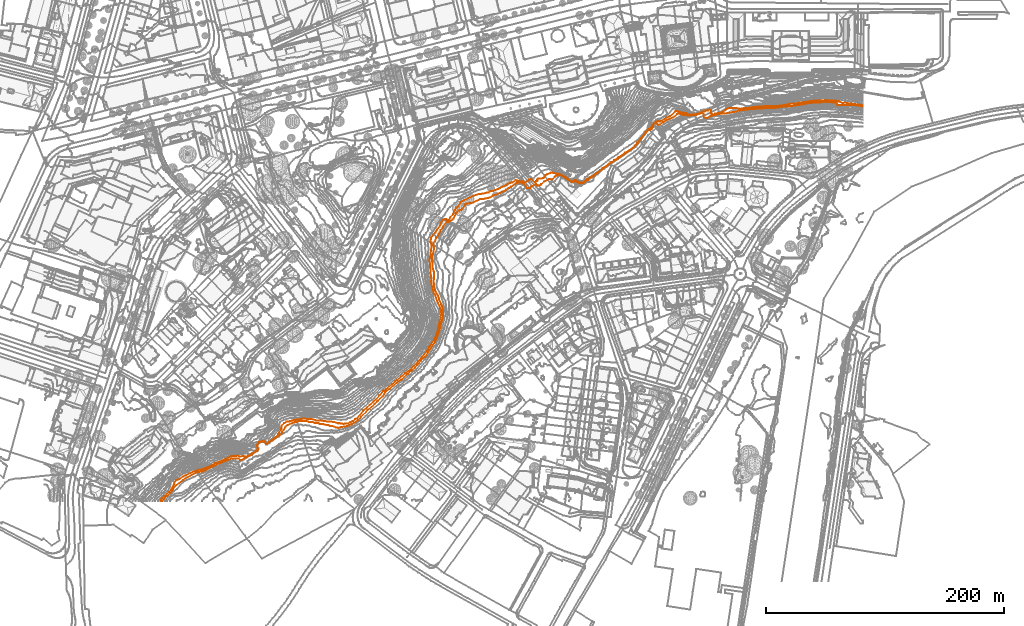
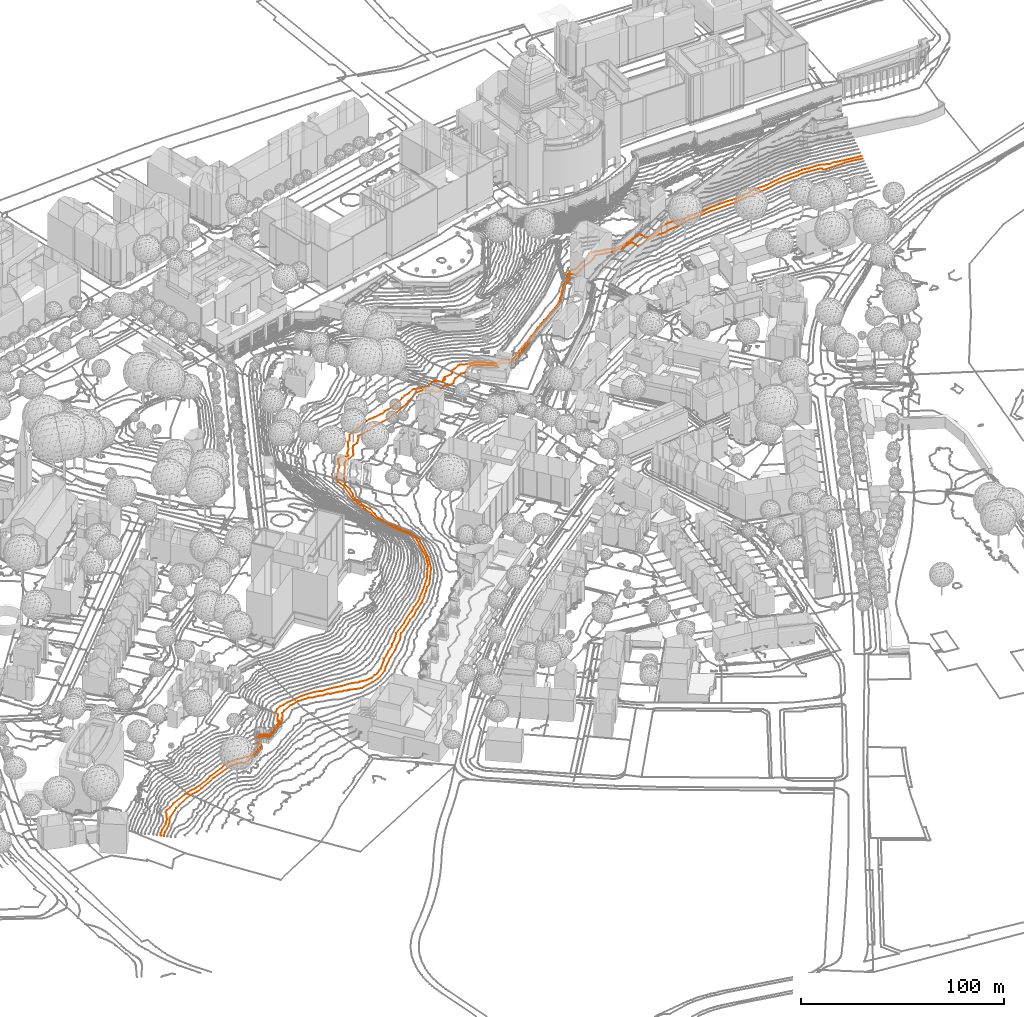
# Not in any storey, part 146 of 494: 2 proxies.
"""IFC2X3 model written with IfcOpenShell, lengths in metres."""

from ifc_helpers import new_model, entity, si_unit, frame, origin_with_axes, place, context, subcontext, project, element, save


model = new_model("IFC2X3")

# Units and contexts
model_context = context("Model", 3, precision=1e-05, world=origin_with_axes())
body_context = subcontext(model_context, "Body", "Model", "MODEL_VIEW")
ifc_project = project(units=[si_unit("AREAUNIT", "SQUARE_METRE"), si_unit("LENGTHUNIT", "METRE")], contexts=[model_context])

# Proxies
proxy_1_placement = place(None, frame((98.571785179, -1.3292839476, 514.0), z_axis=(0.0, 0.0, 1.0), x_axis=(1.0, 0.0, 0.0)))
element("IfcBuildingElementProxy", 1, at=proxy_1_placement, Name="Contour Line 514.0 m", ObjectType="NOTDEFINED", context=body_context, shape_type="GeometricCurveSet", body=[
    entity("IfcGeometricCurveSet", [entity("IfcPolyline", [entity("IfcCartesianPoint", [589.6059468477, 331.9594282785, 0.0]), entity("IfcCartesianPoint", [584.1059468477, 332.9548696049, 0.0]), entity("IfcCartesianPoint", [580.1059468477, 333.2651640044, 0.0]), entity("IfcCartesianPoint", [568.1059468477, 333.1417293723, 0.0]), entity("IfcCartesianPoint", [567.7013393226, 333.5, 0.0]), entity("IfcCartesianPoint", [567.5474795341, 334.5, 0.0]), entity("IfcCartesianPoint", [567.1059468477, 335.1589852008, 0.0]), entity("IfcCartesianPoint", [557.1059468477, 335.9187613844, 0.0]), entity("IfcCartesianPoint", [554.1059468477, 335.468743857, 0.0]), entity("IfcCartesianPoint", [550.1059468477, 335.445749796, 0.0]), entity("IfcCartesianPoint", [543.1059468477, 334.720130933, 0.0]), entity("IfcCartesianPoint", [536.1059468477, 333.2862035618, 0.0]), entity("IfcCartesianPoint", [527.1059468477, 332.1477184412, 0.0]), entity("IfcCartesianPoint", [523.1059468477, 331.9909195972, 0.0]), entity("IfcCartesianPoint", [517.1059468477, 330.9113481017, 0.0]), entity("IfcCartesianPoint", [502.1059468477, 330.3070641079, 0.0]), entity("IfcCartesianPoint", [489.1059468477, 329.151512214, 0.0]), entity("IfcCartesianPoint", [485.1059468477, 328.5150466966, 0.0]), entity("IfcCartesianPoint", [481.1059468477, 327.2763547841, 0.0]), entity("IfcCartesianPoint", [477.1059468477, 326.9075410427, 0.0]), entity("IfcCartesianPoint", [473.1059468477, 325.8122884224, 0.0]), entity("IfcCartesianPoint", [470.1059468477, 325.86896447, 0.0]), entity("IfcCartesianPoint", [466.5301568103, 325.5, 0.0]), entity("IfcCartesianPoint", [461.1059468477, 323.8666316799, 0.0]), entity("IfcCartesianPoint", [458.1059468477, 322.3912874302, 0.0]), entity("IfcCartesianPoint", [455.5817755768, 322.5, 0.0]), entity("IfcCartesianPoint", [455.2127024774, 325.5, 0.0]), entity("IfcCartesianPoint", [454.5564838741, 326.5, 0.0]), entity("IfcCartesianPoint", [453.1059468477, 326.5453425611, 0.0]), entity("IfcCartesianPoint", [452.1059468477, 325.8508018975, 0.0]), entity("IfcCartesianPoint", [450.1059468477, 325.6670409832, 0.0]), entity("IfcCartesianPoint", [449.1059468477, 324.8782945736, 0.0]), entity("IfcCartesianPoint", [446.1059468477, 324.7115833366, 0.0]), entity("IfcCartesianPoint", [444.1059468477, 324.2545758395, 0.0]), entity("IfcCartesianPoint", [443.1059468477, 324.5233151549, 0.0]), entity("IfcCartesianPoint", [442.1059468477, 324.2590649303, 0.0]), entity("IfcCartesianPoint", [440.1059468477, 324.9649453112, 0.0]), entity("IfcCartesianPoint", [439.1059468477, 324.7634403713, 0.0]), entity("IfcCartesianPoint", [438.1059468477, 324.9267159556, 0.0]), entity("IfcCartesianPoint", [434.1059468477, 325.9720920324, 0.0]), entity("IfcCartesianPoint", [433.1059468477, 325.5798801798, 0.0]), entity("IfcCartesianPoint", [431.0058629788, 323.5, 0.0]), entity("IfcCartesianPoint", [424.1059468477, 320.5284500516, 0.0]), entity("IfcCartesianPoint", [421.1059468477, 318.8002840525, 0.0]), entity("IfcCartesianPoint", [418.1059468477, 316.593466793, 0.0]), entity("IfcCartesianPoint", [417.1059468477, 316.505817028, 0.0]), entity("IfcCartesianPoint", [416.1059468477, 317.6086511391, 0.0]), entity("IfcCartesianPoint", [415.1059468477, 317.7781615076, 0.0]), entity("IfcCartesianPoint", [413.919844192, 317.5, 0.0]), entity("IfcCartesianPoint", [412.9192415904, 316.5, 0.0]), entity("IfcCartesianPoint", [412.6114441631, 314.5, 0.0]), entity("IfcCartesianPoint", [411.8119962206, 313.5, 0.0]), entity("IfcCartesianPoint", [410.1059468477, 312.3087978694, 0.0]), entity("IfcCartesianPoint", [409.1059468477, 312.1571203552, 0.0]), entity("IfcCartesianPoint", [408.1059468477, 311.6035927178, 0.0]), entity("IfcCartesianPoint", [407.1059468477, 310.571220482, 0.0]), entity("IfcCartesianPoint", [406.5355430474, 309.5, 0.0]), entity("IfcCartesianPoint", [403.8411647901, 306.5, 0.0]), entity("IfcCartesianPoint", [402.5788230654, 304.5, 0.0]), entity("IfcCartesianPoint", [400.6896970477, 302.5, 0.0]), entity("IfcCartesianPoint", [399.4157669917, 300.5, 0.0]), entity("IfcCartesianPoint", [396.1059468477, 297.1753197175, 0.0]), entity("IfcCartesianPoint", [383.1059468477, 288.2681412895, 0.0]), entity("IfcCartesianPoint", [376.1059468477, 283.886979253, 0.0]), entity("IfcCartesianPoint", [373.1059468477, 281.3509190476, 0.0]), entity("IfcCartesianPoint", [372.1059468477, 280.9328076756, 0.0]), entity("IfcCartesianPoint", [368.1059468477, 277.8595099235, 0.0]), entity("IfcCartesianPoint", [366.864543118, 276.5, 0.0]), entity("IfcCartesianPoint", [365.1059468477, 275.3777453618, 0.0]), entity("IfcCartesianPoint", [364.1059468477, 274.3519344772, 0.0]), entity("IfcCartesianPoint", [363.1059468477, 274.0240634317, 0.0]), entity("IfcCartesianPoint", [362.1059468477, 273.0766403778, 0.0]), entity("IfcCartesianPoint", [359.1059468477, 271.5437306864, 0.0]), entity("IfcCartesianPoint", [358.1059468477, 270.1761286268, 0.0]), entity("IfcCartesianPoint", [357.1059468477, 270.1074814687, 0.0]), entity("IfcCartesianPoint", [354.1059468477, 267.6359585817, 0.0]), entity("IfcCartesianPoint", [351.1059468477, 267.1376009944, 0.0]), entity("IfcCartesianPoint", [347.1059468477, 268.7859482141, 0.0]), entity("IfcCartesianPoint", [346.1059468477, 268.904473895, 0.0]), entity("IfcCartesianPoint", [344.1059468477, 268.3609822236, 0.0]), entity("IfcCartesianPoint", [335.1059468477, 274.0833305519, 0.0]), entity("IfcCartesianPoint", [333.1059468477, 274.3560474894, 0.0]), entity("IfcCartesianPoint", [330.6603356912, 273.5, 0.0]), entity("IfcCartesianPoint", [328.1059468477, 270.9899579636, 0.0]), entity("IfcCartesianPoint", [327.1223556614, 270.5, 0.0]), entity("IfcCartesianPoint", [325.1059468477, 271.0758346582, 0.0]), entity("IfcCartesianPoint", [324.1059468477, 270.1862793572, 0.0]), entity("IfcCartesianPoint", [321.1059468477, 268.9553617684, 0.0]), entity("IfcCartesianPoint", [318.4668402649, 266.5, 0.0]), entity("IfcCartesianPoint", [318.1059468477, 265.7990867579, 0.0]), entity("IfcCartesianPoint", [316.1059468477, 265.2887806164, 0.0]), entity("IfcCartesianPoint", [315.1059468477, 265.5125633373, 0.0]), entity("IfcCartesianPoint", [314.1059468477, 266.5152134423, 0.0]), entity("IfcCartesianPoint", [313.1059468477, 266.307449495, 0.0]), entity("IfcCartesianPoint", [310.1059468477, 264.4398426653, 0.0]), entity("IfcCartesianPoint", [309.1059468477, 262.8287356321, 0.0]), entity("IfcCartesianPoint", [306.8247918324, 263.5, 0.0]), entity("IfcCartesianPoint", [305.3821909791, 265.5, 0.0]), entity("IfcCartesianPoint", [304.0416921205, 266.5, 0.0]), entity("IfcCartesianPoint", [303.1059468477, 267.6671026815, 0.0]), entity("IfcCartesianPoint", [302.1059468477, 268.0207406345, 0.0]), entity("IfcCartesianPoint", [298.1059468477, 267.8260165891, 0.0]), entity("IfcCartesianPoint", [293.1059468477, 264.4023964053, 0.0]), entity("IfcCartesianPoint", [291.1059468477, 263.4459995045, 0.0]), entity("IfcCartesianPoint", [289.1059468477, 261.9114846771, 0.0]), entity("IfcCartesianPoint", [286.1059468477, 260.3113750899, 0.0]), entity("IfcCartesianPoint", [285.1059468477, 260.0516181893, 0.0]), entity("IfcCartesianPoint", [284.1059468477, 259.3177101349, 0.0]), entity("IfcCartesianPoint", [278.1059468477, 256.9555649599, 0.0]), entity("IfcCartesianPoint", [275.1059468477, 255.2053731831, 0.0]), entity("IfcCartesianPoint", [269.1059468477, 254.0316049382, 0.0]), entity("IfcCartesianPoint", [267.1059468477, 253.904609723, 0.0]), entity("IfcCartesianPoint", [261.1059468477, 251.1013114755, 0.0]), entity("IfcCartesianPoint", [255.1059468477, 250.0660553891, 0.0]), entity("IfcCartesianPoint", [254.4528812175, 249.5, 0.0]), entity("IfcCartesianPoint", [254.1059468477, 248.4628787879, 0.0]), entity("IfcCartesianPoint", [251.8094976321, 245.5, 0.0]), entity("IfcCartesianPoint", [251.1059468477, 244.8616383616, 0.0]), entity("IfcCartesianPoint", [249.1059468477, 244.2946341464, 0.0]), entity("IfcCartesianPoint", [248.2414501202, 243.5, 0.0]), entity("IfcCartesianPoint", [247.1059468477, 242.09070568, 0.0]), entity("IfcCartesianPoint", [244.8250013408, 237.5, 0.0]), entity("IfcCartesianPoint", [244.1059468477, 236.7736055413, 0.0]), entity("IfcCartesianPoint", [241.1059468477, 235.1178809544, 0.0]), entity("IfcCartesianPoint", [240.1059468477, 234.8031265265, 0.0]), entity("IfcCartesianPoint", [239.1059468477, 235.0024965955, 0.0]), entity("IfcCartesianPoint", [237.1059468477, 232.6320885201, 0.0]), entity("IfcCartesianPoint", [236.1059468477, 231.0991421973, 0.0]), entity("IfcCartesianPoint", [235.5253586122, 229.5, 0.0]), entity("IfcCartesianPoint", [234.1059468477, 227.8231179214, 0.0]), entity("IfcCartesianPoint", [233.1059468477, 225.7654304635, 0.0]), entity("IfcCartesianPoint", [232.1059468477, 224.6135211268, 0.0]), entity("IfcCartesianPoint", [231.7069579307, 223.5, 0.0]), entity("IfcCartesianPoint", [230.2936835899, 221.5, 0.0]), entity("IfcCartesianPoint", [229.1758440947, 218.5, 0.0]), entity("IfcCartesianPoint", [228.1059468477, 217.2849056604, 0.0]), entity("IfcCartesianPoint", [227.9494970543, 216.5, 0.0]), entity("IfcCartesianPoint", [228.4861640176, 212.5, 0.0]), entity("IfcCartesianPoint", [227.3376971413, 207.5, 0.0]), entity("IfcCartesianPoint", [226.8652773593, 206.5, 0.0]), entity("IfcCartesianPoint", [226.5787369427, 202.5, 0.0]), entity("IfcCartesianPoint", [226.9668421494, 200.5, 0.0]), entity("IfcCartesianPoint", [227.0148047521, 197.5, 0.0]), entity("IfcCartesianPoint", [228.2474833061, 192.5, 0.0]), entity("IfcCartesianPoint", [228.3943592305, 187.5, 0.0]), entity("IfcCartesianPoint", [228.050290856, 184.5, 0.0]), entity("IfcCartesianPoint", [228.6155231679, 182.5, 0.0]), entity("IfcCartesianPoint", [228.622274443, 180.5, 0.0]), entity("IfcCartesianPoint", [229.4763681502, 177.5, 0.0]), entity("IfcCartesianPoint", [231.5663255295, 173.5, 0.0]), entity("IfcCartesianPoint", [232.7020662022, 170.5, 0.0]), entity("IfcCartesianPoint", [232.7532195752, 169.5, 0.0]), entity("IfcCartesianPoint", [235.1124173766, 164.5, 0.0]), entity("IfcCartesianPoint", [236.0861800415, 159.5, 0.0]), entity("IfcCartesianPoint", [236.1380164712, 156.5, 0.0]), entity("IfcCartesianPoint", [232.731497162, 142.5, 0.0]), entity("IfcCartesianPoint", [229.1059468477, 133.6725989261, 0.0]), entity("IfcCartesianPoint", [221.1059468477, 121.6346685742, 0.0]), entity("IfcCartesianPoint", [219.1059468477, 120.4701397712, 0.0]), entity("IfcCartesianPoint", [217.1059468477, 117.5794183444, 0.0]), entity("IfcCartesianPoint", [214.8938659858, 115.5, 0.0]), entity("IfcCartesianPoint", [214.1059468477, 114.3082275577, 0.0]), entity("IfcCartesianPoint", [210.1059468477, 110.0570573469, 0.0]), entity("IfcCartesianPoint", [209.0609356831, 109.5, 0.0]), entity("IfcCartesianPoint", [206.1059468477, 106.7305249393, 0.0]), entity("IfcCartesianPoint", [205.1059468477, 106.2569254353, 0.0]), entity("IfcCartesianPoint", [201.1059468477, 102.372452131, 0.0]), entity("IfcCartesianPoint", [198.082780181, 100.5, 0.0]), entity("IfcCartesianPoint", [191.1059468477, 94.3679515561, 0.0]), entity("IfcCartesianPoint", [188.2120156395, 92.5, 0.0]), entity("IfcCartesianPoint", [187.2626299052, 91.5, 0.0]), entity("IfcCartesianPoint", [186.297906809, 89.5, 0.0]), entity("IfcCartesianPoint", [185.1059468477, 88.0558485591, 0.0]), entity("IfcCartesianPoint", [181.1619781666, 84.5, 0.0]), entity("IfcCartesianPoint", [180.5318760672, 83.5, 0.0]), entity("IfcCartesianPoint", [178.5059468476, 81.5, 0.0]), entity("IfcCartesianPoint", [172.5660353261, 76.5, 0.0]), entity("IfcCartesianPoint", [167.1059468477, 71.0212385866, 0.0]), entity("IfcCartesianPoint", [165.0123149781, 68.5, 0.0]), entity("IfcCartesianPoint", [159.1059468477, 64.5733065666, 0.0]), entity("IfcCartesianPoint", [155.1059468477, 63.0264499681, 0.0]), entity("IfcCartesianPoint", [149.1059468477, 61.9143686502, 0.0]), entity("IfcCartesianPoint", [148.1059468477, 61.4517728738, 0.0]), entity("IfcCartesianPoint", [146.1059468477, 61.74251497, 0.0]), entity("IfcCartesianPoint", [142.1059468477, 63.1335234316, 0.0]), entity("IfcCartesianPoint", [141.1059468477, 63.0815968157, 0.0]), entity("IfcCartesianPoint", [139.1059468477, 63.7802916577, 0.0]), entity("IfcCartesianPoint", [138.1059468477, 63.750155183, 0.0]), entity("IfcCartesianPoint", [136.1059468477, 64.463902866, 0.0]), entity("IfcCartesianPoint", [132.1059468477, 64.7651085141, 0.0]), entity("IfcCartesianPoint", [131.1059468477, 65.5719273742, 0.0]), entity("IfcCartesianPoint", [128.1059468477, 65.5747102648, 0.0]), entity("IfcCartesianPoint", [126.1059468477, 66.2330412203, 0.0]), entity("IfcCartesianPoint", [123.1059468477, 66.5140122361, 0.0]), entity("IfcCartesianPoint", [121.1059468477, 67.2397260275, 0.0]), entity("IfcCartesianPoint", [115.1059468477, 67.3246373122, 0.0]), entity("IfcCartesianPoint", [112.1059468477, 66.3973349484, 0.0]), entity("IfcCartesianPoint", [110.1059468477, 66.1534486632, 0.0]), entity("IfcCartesianPoint", [105.1059468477, 63.7904059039, 0.0]), entity("IfcCartesianPoint", [103.3303370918, 62.5, 0.0]), entity("IfcCartesianPoint", [101.6186685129, 59.5, 0.0]), entity("IfcCartesianPoint", [100.6341247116, 58.5, 0.0]), entity("IfcCartesianPoint", [100.6378731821, 57.5, 0.0]), entity("IfcCartesianPoint", [98.1059468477, 54.855233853, 0.0]), entity("IfcCartesianPoint", [96.1059468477, 53.9499979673, 0.0]), entity("IfcCartesianPoint", [95.1059468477, 52.987346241, 0.0]), entity("IfcCartesianPoint", [94.1059468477, 52.605436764, 0.0]), entity("IfcCartesianPoint", [92.1059468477, 50.9747451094, 0.0]), entity("IfcCartesianPoint", [91.1059468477, 50.5740040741, 0.0]), entity("IfcCartesianPoint", [88.1059468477, 48.0311904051, 0.0]), entity("IfcCartesianPoint", [87.1059468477, 47.9833058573, 0.0]), entity("IfcCartesianPoint", [86.1059468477, 49.2589251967, 0.0]), entity("IfcCartesianPoint", [85.1059468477, 49.9767742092, 0.0]), entity("IfcCartesianPoint", [84.1059468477, 50.0413510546, 0.0]), entity("IfcCartesianPoint", [81.6856656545, 49.5, 0.0]), entity("IfcCartesianPoint", [79.9453875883, 47.5, 0.0]), entity("IfcCartesianPoint", [79.87834985, 45.5, 0.0]), entity("IfcCartesianPoint", [80.3794131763, 43.5, 0.0]), entity("IfcCartesianPoint", [79.9560072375, 42.5, 0.0]), entity("IfcCartesianPoint", [79.1059468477, 41.8758182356, 0.0]), entity("IfcCartesianPoint", [78.1059468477, 41.5844886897, 0.0]), entity("IfcCartesianPoint", [75.1059468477, 39.166845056, 0.0]), entity("IfcCartesianPoint", [74.1059468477, 38.8985721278, 0.0]), entity("IfcCartesianPoint", [73.1059468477, 38.0644364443, 0.0]), entity("IfcCartesianPoint", [72.1059468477, 37.9028998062, 0.0]), entity("IfcCartesianPoint", [71.1059468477, 37.0227254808, 0.0]), entity("IfcCartesianPoint", [66.4226121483, 34.5, 0.0]), entity("IfcCartesianPoint", [65.2836820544, 34.5, 0.0]), entity("IfcCartesianPoint", [64.1059468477, 35.6488322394, 0.0]), entity("IfcCartesianPoint", [62.1059468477, 35.8882172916, 0.0]), entity("IfcCartesianPoint", [58.1059468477, 35.7005704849, 0.0]), entity("IfcCartesianPoint", [46.1059468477, 31.0009292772, 0.0]), entity("IfcCartesianPoint", [36.1059468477, 26.0742637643, 0.0]), entity("IfcCartesianPoint", [33.1059468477, 24.8631255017, 0.0]), entity("IfcCartesianPoint", [28.1059468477, 23.8907358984, 0.0]), entity("IfcCartesianPoint", [20.1059468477, 19.6237955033, 0.0]), entity("IfcCartesianPoint", [17.1059468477, 17.6781775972, 0.0]), entity("IfcCartesianPoint", [11.1059468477, 12.9367421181, 0.0]), entity("IfcCartesianPoint", [9.7576456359, 11.5, 0.0]), entity("IfcCartesianPoint", [8.6793084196, 9.5, 0.0]), entity("IfcCartesianPoint", [6.1235510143, 6.5, 0.0]), entity("IfcCartesianPoint", [2.1059468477, 2.8763125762, 0.0]), entity("IfcCartesianPoint", [0.0, 0.5, 0.0]), entity("IfcCartesianPoint", [0.0, 0.0, 0.0])])]),
])
proxy_2_placement = place(None, frame((96.6989992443, -1.3292839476, 515.0), z_axis=(0.0, 0.0, 1.0), x_axis=(1.0, 0.0, 0.0)))
element("IfcBuildingElementProxy", 2, at=proxy_2_placement, Name="Contour Line 515.0 m", ObjectType="NOTDEFINED", context=body_context, shape_type="GeometricCurveSet", body=[
    entity("IfcGeometricCurveSet", [entity("IfcPolyline", [entity("IfcCartesianPoint", [591.4787327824, 332.9415138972, 0.0]), entity("IfcCartesianPoint", [577.9787327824, 334.768607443, 0.0]), entity("IfcCartesianPoint", [575.9787327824, 335.3374003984, 0.0]), entity("IfcCartesianPoint", [573.9787327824, 334.6984909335, 0.0]), entity("IfcCartesianPoint", [570.9787327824, 336.3086014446, 0.0]), entity("IfcCartesianPoint", [567.9787327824, 336.9974543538, 0.0]), entity("IfcCartesianPoint", [562.9787327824, 337.0015273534, 0.0]), entity("IfcCartesianPoint", [559.9787327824, 337.426889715, 0.0]), entity("IfcCartesianPoint", [557.9787327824, 337.0893248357, 0.0]), entity("IfcCartesianPoint", [548.9787327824, 336.7439199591, 0.0]), entity("IfcCartesianPoint", [540.9787327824, 335.5189300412, 0.0]), entity("IfcCartesianPoint", [537.9787327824, 334.7450601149, 0.0]), entity("IfcCartesianPoint", [531.9787327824, 334.541755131, 0.0]), entity("IfcCartesianPoint", [521.9787327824, 332.6477461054, 0.0]), entity("IfcCartesianPoint", [516.9787327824, 332.26888015, 0.0]), entity("IfcCartesianPoint", [513.9787327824, 332.4925011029, 0.0]), entity("IfcCartesianPoint", [499.9787327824, 331.5959531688, 0.0]), entity("IfcCartesianPoint", [494.9787327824, 330.8009591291, 0.0]), entity("IfcCartesianPoint", [490.9787327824, 330.5956361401, 0.0]), entity("IfcCartesianPoint", [487.9787327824, 330.0144763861, 0.0]), entity("IfcCartesianPoint", [483.9787327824, 330.6640897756, 0.0]), entity("IfcCartesianPoint", [479.9787327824, 330.8440860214, 0.0]), entity("IfcCartesianPoint", [477.9787327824, 330.5143639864, 0.0]), entity("IfcCartesianPoint", [475.9787327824, 329.7093643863, 0.0]), entity("IfcCartesianPoint", [471.9787327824, 326.9774697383, 0.0]), entity("IfcCartesianPoint", [466.9787327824, 325.8930828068, 0.0]), entity("IfcCartesianPoint", [465.9787327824, 325.3099361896, 0.0]), entity("IfcCartesianPoint", [463.6398315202, 325.5, 0.0]), entity("IfcCartesianPoint", [463.3678236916, 328.5, 0.0]), entity("IfcCartesianPoint", [462.0561360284, 329.5, 0.0]), entity("IfcCartesianPoint", [460.9787327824, 328.6560026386, 0.0]), entity("IfcCartesianPoint", [458.7236513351, 328.5, 0.0]), entity("IfcCartesianPoint", [457.9787327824, 327.8515700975, 0.0]), entity("IfcCartesianPoint", [456.1708539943, 327.5, 0.0]), entity("IfcCartesianPoint", [452.9787327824, 325.9277697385, 0.0]), entity("IfcCartesianPoint", [451.9787327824, 325.9614154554, 0.0]), entity("IfcCartesianPoint", [449.9787327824, 325.1366212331, 0.0]), entity("IfcCartesianPoint", [447.9787327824, 325.3383382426, 0.0]), entity("IfcCartesianPoint", [445.9787327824, 324.9123844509, 0.0]), entity("IfcCartesianPoint", [444.9787327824, 325.3430479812, 0.0]), entity("IfcCartesianPoint", [443.9787327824, 325.3352652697, 0.0]), entity("IfcCartesianPoint", [442.9787327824, 326.181233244, 0.0]), entity("IfcCartesianPoint", [441.9787327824, 326.433919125, 0.0]), entity("IfcCartesianPoint", [440.9787327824, 326.3007536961, 0.0]), entity("IfcCartesianPoint", [433.9787327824, 328.0890675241, 0.0]), entity("IfcCartesianPoint", [432.9787327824, 327.6170743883, 0.0]), entity("IfcCartesianPoint", [428.9787327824, 323.8275583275, 0.0]), entity("IfcCartesianPoint", [425.7405420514, 322.5, 0.0]), entity("IfcCartesianPoint", [420.9787327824, 319.5451778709, 0.0]), entity("IfcCartesianPoint", [419.9787327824, 319.3086174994, 0.0]), entity("IfcCartesianPoint", [418.9787327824, 319.7831848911, 0.0]), entity("IfcCartesianPoint", [416.9787327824, 319.2932485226, 0.0]), entity("IfcCartesianPoint", [416.578034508, 318.5, 0.0]), entity("IfcCartesianPoint", [414.9787327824, 317.5531714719, 0.0]), entity("IfcCartesianPoint", [414.0146504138, 316.5, 0.0]), entity("IfcCartesianPoint", [412.3924279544, 313.5, 0.0]), entity("IfcCartesianPoint", [410.9787327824, 312.9702900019, 0.0]), entity("IfcCartesianPoint", [408.3742339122, 310.5, 0.0]), entity("IfcCartesianPoint", [407.0936332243, 308.5, 0.0]), entity("IfcCartesianPoint", [404.4269508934, 305.5, 0.0]), entity("IfcCartesianPoint", [403.1779585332, 303.5, 0.0]), entity("IfcCartesianPoint", [401.3153707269, 301.5, 0.0]), entity("IfcCartesianPoint", [399.980817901, 299.5, 0.0]), entity("IfcCartesianPoint", [398.8302223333, 298.5, 0.0]), entity("IfcCartesianPoint", [395.0201782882, 295.5, 0.0]), entity("IfcCartesianPoint", [390.9787327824, 293.0302076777, 0.0]), entity("IfcCartesianPoint", [386.1551833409, 289.5, 0.0]), entity("IfcCartesianPoint", [384.9787327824, 289.0106936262, 0.0]), entity("IfcCartesianPoint", [382.9787327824, 287.3566530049, 0.0]), entity("IfcCartesianPoint", [381.9787327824, 287.0233266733, 0.0]), entity("IfcCartesianPoint", [379.9787327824, 285.3350121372, 0.0]), entity("IfcCartesianPoint", [378.9787327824, 285.0066216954, 0.0]), entity("IfcCartesianPoint", [372.9787327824, 280.3321134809, 0.0]), entity("IfcCartesianPoint", [371.9787327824, 280.0073905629, 0.0]), entity("IfcCartesianPoint", [367.9787327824, 276.2127376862, 0.0]), entity("IfcCartesianPoint", [366.9787327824, 276.0185750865, 0.0]), entity("IfcCartesianPoint", [365.5607562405, 274.5, 0.0]), entity("IfcCartesianPoint", [363.9787327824, 273.3696460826, 0.0]), entity("IfcCartesianPoint", [362.9787327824, 273.0440775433, 0.0]), entity("IfcCartesianPoint", [361.9787327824, 272.2404329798, 0.0]), entity("IfcCartesianPoint", [360.9787327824, 272.05513937, 0.0]), entity("IfcCartesianPoint", [359.9787327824, 270.55598982, 0.0]), entity("IfcCartesianPoint", [358.9787327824, 270.8315259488, 0.0]), entity("IfcCartesianPoint", [355.9787327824, 268.1500470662, 0.0]), entity("IfcCartesianPoint", [352.9787327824, 268.1558324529, 0.0]), entity("IfcCartesianPoint", [351.8814938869, 268.5, 0.0]), entity("IfcCartesianPoint", [349.9787327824, 269.7799091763, 0.0]), entity("IfcCartesianPoint", [348.9787327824, 269.8760092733, 0.0]), entity("IfcCartesianPoint", [345.9787327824, 268.8704053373, 0.0]), entity("IfcCartesianPoint", [343.2481027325, 270.5, 0.0]), entity("IfcCartesianPoint", [340.9787327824, 272.409914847, 0.0]), entity("IfcCartesianPoint", [336.9787327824, 274.6302069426, 0.0]), entity("IfcCartesianPoint", [330.9787327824, 275.9534248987, 0.0]), entity("IfcCartesianPoint", [329.9787327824, 276.5341997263, 0.0]), entity("IfcCartesianPoint", [328.9787327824, 276.5645847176, 0.0]), entity("IfcCartesianPoint", [325.9787327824, 274.9265301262, 0.0]), entity("IfcCartesianPoint", [323.9787327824, 274.4248633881, 0.0]), entity("IfcCartesianPoint", [322.9787327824, 272.1540905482, 0.0]), entity("IfcCartesianPoint", [321.9787327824, 271.5952801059, 0.0]), entity("IfcCartesianPoint", [317.9787327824, 271.2481910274, 0.0]), entity("IfcCartesianPoint", [317.0041804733, 270.5, 0.0]), entity("IfcCartesianPoint", [317.2738759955, 269.5, 0.0]), entity("IfcCartesianPoint", [316.9787327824, 269.0815185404, 0.0]), entity("IfcCartesianPoint", [315.9787327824, 269.006875, 0.0]), entity("IfcCartesianPoint", [315.8301163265, 268.5, 0.0]), entity("IfcCartesianPoint", [314.9787327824, 268.2312897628, 0.0]), entity("IfcCartesianPoint", [312.1897728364, 270.5, 0.0]), entity("IfcCartesianPoint", [311.9787327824, 270.9675615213, 0.0]), entity("IfcCartesianPoint", [310.435405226, 270.5, 0.0]), entity("IfcCartesianPoint", [309.4242960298, 269.5, 0.0]), entity("IfcCartesianPoint", [307.9787327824, 268.7887853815, 0.0]), entity("IfcCartesianPoint", [306.9787327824, 267.8933014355, 0.0]), entity("IfcCartesianPoint", [305.9787327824, 267.8881526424, 0.0]), entity("IfcCartesianPoint", [304.9787327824, 269.0180423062, 0.0]), entity("IfcCartesianPoint", [302.9787327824, 268.8419573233, 0.0]), entity("IfcCartesianPoint", [299.9787327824, 269.8174927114, 0.0]), entity("IfcCartesianPoint", [298.9787327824, 269.8747095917, 0.0]), entity("IfcCartesianPoint", [295.9787327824, 268.0885558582, 0.0]), entity("IfcCartesianPoint", [292.9787327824, 267.3068410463, 0.0]), entity("IfcCartesianPoint", [290.9787327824, 265.9906444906, 0.0]), entity("IfcCartesianPoint", [287.9787327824, 264.4594567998, 0.0]), entity("IfcCartesianPoint", [286.9787327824, 264.2634138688, 0.0]), entity("IfcCartesianPoint", [285.9787327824, 263.3903688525, 0.0]), entity("IfcCartesianPoint", [283.9787327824, 262.5256104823, 0.0]), entity("IfcCartesianPoint", [279.9787327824, 260.9929315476, 0.0]), entity("IfcCartesianPoint", [277.9787327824, 260.6968054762, 0.0]), entity("IfcCartesianPoint", [275.9787327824, 259.4662179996, 0.0]), entity("IfcCartesianPoint", [274.9787327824, 259.4970538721, 0.0]), entity("IfcCartesianPoint", [270.9787327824, 258.5055141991, 0.0]), entity("IfcCartesianPoint", [267.9787327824, 258.3765251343, 0.0]), entity("IfcCartesianPoint", [263.9787327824, 257.0467678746, 0.0]), entity("IfcCartesianPoint", [254.2360763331, 252.5, 0.0]), entity("IfcCartesianPoint", [252.7204894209, 251.5, 0.0]), entity("IfcCartesianPoint", [250.2838304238, 247.5, 0.0]), entity("IfcCartesianPoint", [248.9787327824, 246.9739185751, 0.0]), entity("IfcCartesianPoint", [247.9787327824, 244.7557138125, 0.0]), entity("IfcCartesianPoint", [247.0843479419, 243.5, 0.0]), entity("IfcCartesianPoint", [246.3926967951, 241.5, 0.0]), entity("IfcCartesianPoint", [243.6790531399, 238.5, 0.0]), entity("IfcCartesianPoint", [243.2462935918, 236.5, 0.0]), entity("IfcCartesianPoint", [241.9787327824, 236.1179908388, 0.0]), entity("IfcCartesianPoint", [240.9787327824, 236.9627489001, 0.0]), entity("IfcCartesianPoint", [239.9787327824, 237.2099398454, 0.0]), entity("IfcCartesianPoint", [238.9787327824, 237.1253778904, 0.0]), entity("IfcCartesianPoint", [237.3853758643, 236.5, 0.0]), entity("IfcCartesianPoint", [236.240193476, 234.5, 0.0]), entity("IfcCartesianPoint", [234.9787327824, 230.957771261, 0.0]), entity("IfcCartesianPoint", [232.7803550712, 228.5, 0.0]), entity("IfcCartesianPoint", [231.9787327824, 226.8930578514, 0.0]), entity("IfcCartesianPoint", [228.9426995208, 223.5, 0.0]), entity("IfcCartesianPoint", [227.9149597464, 221.5, 0.0]), entity("IfcCartesianPoint", [227.8610381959, 220.5, 0.0]), entity("IfcCartesianPoint", [227.3735431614, 219.5, 0.0]), entity("IfcCartesianPoint", [228.2337026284, 214.5, 0.0]), entity("IfcCartesianPoint", [226.5601961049, 202.5, 0.0]), entity("IfcCartesianPoint", [227.1274477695, 196.5, 0.0]), entity("IfcCartesianPoint", [227.574815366, 194.5, 0.0]), entity("IfcCartesianPoint", [227.2461397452, 192.5, 0.0]), entity("IfcCartesianPoint", [228.0962233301, 187.5, 0.0]), entity("IfcCartesianPoint", [227.8745221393, 185.5, 0.0]), entity("IfcCartesianPoint", [228.1896179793, 182.5, 0.0]), entity("IfcCartesianPoint", [230.0600606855, 175.5, 0.0]), entity("IfcCartesianPoint", [231.1181156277, 173.5, 0.0]), entity("IfcCartesianPoint", [233.5766916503, 166.5, 0.0]), entity("IfcCartesianPoint", [234.7614718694, 164.5, 0.0]), entity("IfcCartesianPoint", [235.5393994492, 162.5, 0.0]), entity("IfcCartesianPoint", [236.351445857, 159.5, 0.0]), entity("IfcCartesianPoint", [236.4416786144, 157.5, 0.0]), entity("IfcCartesianPoint", [233.1138928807, 142.5, 0.0]), entity("IfcCartesianPoint", [230.2884406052, 135.5, 0.0]), entity("IfcCartesianPoint", [228.1491487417, 132.5, 0.0]), entity("IfcCartesianPoint", [227.128009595, 130.5, 0.0]), entity("IfcCartesianPoint", [226.2158695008, 129.5, 0.0]), entity("IfcCartesianPoint", [224.6248348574, 126.5, 0.0]), entity("IfcCartesianPoint", [216.9787327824, 117.7048916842, 0.0]), entity("IfcCartesianPoint", [212.9787327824, 113.7273288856, 0.0]), entity("IfcCartesianPoint", [211.9787327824, 112.2713966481, 0.0]), entity("IfcCartesianPoint", [207.9787327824, 108.8225806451, 0.0]), entity("IfcCartesianPoint", [205.9787327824, 107.4717227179, 0.0]), entity("IfcCartesianPoint", [203.9787327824, 105.4285146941, 0.0]), entity("IfcCartesianPoint", [202.4207185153, 104.5, 0.0]), entity("IfcCartesianPoint", [197.9787327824, 100.8999517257, 0.0]), entity("IfcCartesianPoint", [194.9787327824, 98.1790500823, 0.0]), entity("IfcCartesianPoint", [187.3909269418, 92.5, 0.0]), entity("IfcCartesianPoint", [184.1950471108, 88.5, 0.0]), entity("IfcCartesianPoint", [181.0927189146, 85.5, 0.0]), entity("IfcCartesianPoint", [179.4439143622, 83.5, 0.0]), entity("IfcCartesianPoint", [175.9787327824, 80.8668493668, 0.0]), entity("IfcCartesianPoint", [173.827594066, 78.5, 0.0]), entity("IfcCartesianPoint", [171.057542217, 76.5, 0.0]), entity("IfcCartesianPoint", [170.5648041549, 75.5, 0.0]), entity("IfcCartesianPoint", [165.1156237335, 69.5, 0.0]), entity("IfcCartesianPoint", [163.9787327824, 69.0097613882, 0.0]), entity("IfcCartesianPoint", [161.9787327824, 67.1980920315, 0.0]), entity("IfcCartesianPoint", [159.9787327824, 66.5001802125, 0.0]), entity("IfcCartesianPoint", [157.9787327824, 65.3171763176, 0.0]), entity("IfcCartesianPoint", [155.9787327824, 65.2824494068, 0.0]), entity("IfcCartesianPoint", [153.9787327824, 64.7764993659, 0.0]), entity("IfcCartesianPoint", [150.9787327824, 65.4226441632, 0.0]), entity("IfcCartesianPoint", [149.9787327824, 65.2409424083, 0.0]), entity("IfcCartesianPoint", [145.9787327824, 66.5500281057, 0.0]), entity("IfcCartesianPoint", [140.9787327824, 66.7250000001, 0.0]), entity("IfcCartesianPoint", [134.9787327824, 67.7196229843, 0.0]), entity("IfcCartesianPoint", [130.9787327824, 67.8510101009, 0.0]), entity("IfcCartesianPoint", [126.9787327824, 68.9987779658, 0.0]), entity("IfcCartesianPoint", [119.9787327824, 69.210696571, 0.0]), entity("IfcCartesianPoint", [110.9787327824, 67.8469264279, 0.0]), entity("IfcCartesianPoint", [108.9787327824, 67.0723538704, 0.0]), entity("IfcCartesianPoint", [105.9787327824, 66.6234272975, 0.0]), entity("IfcCartesianPoint", [103.9787327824, 65.4907087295, 0.0]), entity("IfcCartesianPoint", [102.0241663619, 63.5, 0.0]), entity("IfcCartesianPoint", [101.9054103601, 61.5, 0.0]), entity("IfcCartesianPoint", [101.5507685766, 60.5, 0.0]), entity("IfcCartesianPoint", [98.9269758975, 56.5, 0.0]), entity("IfcCartesianPoint", [99.9787327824, 56.1478320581, 0.0]), entity("IfcCartesianPoint", [99.9787327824, 55.3918511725, 0.0]), entity("IfcCartesianPoint", [98.9787327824, 55.1422390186, 0.0]), entity("IfcCartesianPoint", [98.6242159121, 54.5, 0.0]), entity("IfcCartesianPoint", [97.9787327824, 54.2830196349, 0.0]), entity("IfcCartesianPoint", [96.9787327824, 53.2917797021, 0.0]), entity("IfcCartesianPoint", [95.9787327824, 53.079497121, 0.0]), entity("IfcCartesianPoint", [94.3076632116, 51.5, 0.0]), entity("IfcCartesianPoint", [92.9787327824, 50.918068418, 0.0]), entity("IfcCartesianPoint", [91.5970878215, 49.5, 0.0]), entity("IfcCartesianPoint", [89.9787327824, 48.4076350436, 0.0]), entity("IfcCartesianPoint", [88.9787327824, 48.3087274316, 0.0]), entity("IfcCartesianPoint", [88.1408032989, 49.5, 0.0]), entity("IfcCartesianPoint", [86.9787327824, 50.3721314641, 0.0]), entity("IfcCartesianPoint", [85.9787327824, 50.5013374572, 0.0]), entity("IfcCartesianPoint", [83.0921492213, 49.5, 0.0]), entity("IfcCartesianPoint", [81.6217132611, 47.5, 0.0]), entity("IfcCartesianPoint", [81.4332417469, 46.5, 0.0]), entity("IfcCartesianPoint", [81.8391734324, 43.5, 0.0]), entity("IfcCartesianPoint", [81.5146887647, 42.5, 0.0]), entity("IfcCartesianPoint", [79.9787327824, 41.8691406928, 0.0]), entity("IfcCartesianPoint", [77.9787327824, 40.1878247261, 0.0]), entity("IfcCartesianPoint", [74.9787327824, 38.3781739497, 0.0]), entity("IfcCartesianPoint", [73.9787327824, 38.2408117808, 0.0]), entity("IfcCartesianPoint", [72.9787327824, 37.3456520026, 0.0]), entity("IfcCartesianPoint", [71.9787327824, 37.2919526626, 0.0]), entity("IfcCartesianPoint", [70.9787327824, 36.8542116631, 0.0]), entity("IfcCartesianPoint", [69.9787327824, 37.8351158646, 0.0]), entity("IfcCartesianPoint", [66.9787327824, 37.397039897, 0.0]), entity("IfcCartesianPoint", [64.9787327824, 38.0475242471, 0.0]), entity("IfcCartesianPoint", [59.9787327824, 37.6719411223, 0.0]), entity("IfcCartesianPoint", [56.7890639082, 36.5, 0.0]), entity("IfcCartesianPoint", [54.9787327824, 35.2592780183, 0.0]), entity("IfcCartesianPoint", [45.9787327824, 31.788113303, 0.0]), entity("IfcCartesianPoint", [43.9787327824, 30.3911733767, 0.0]), entity("IfcCartesianPoint", [37.9787327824, 27.7427430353, 0.0]), entity("IfcCartesianPoint", [34.9787327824, 26.5779358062, 0.0]), entity("IfcCartesianPoint", [31.9787327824, 26.1078431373, 0.0]), entity("IfcCartesianPoint", [27.9787327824, 24.7939994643, 0.0]), entity("IfcCartesianPoint", [18.9787327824, 20.6665490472, 0.0]), entity("IfcCartesianPoint", [15.9787327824, 18.5155138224, 0.0]), entity("IfcCartesianPoint", [13.3235484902, 17.5, 0.0]), entity("IfcCartesianPoint", [11.9787327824, 16.1204188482, 0.0]), entity("IfcCartesianPoint", [11.6830465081, 14.5, 0.0]), entity("IfcCartesianPoint", [9.4669217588, 10.5, 0.0]), entity("IfcCartesianPoint", [6.9787327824, 7.362727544, 0.0]), entity("IfcCartesianPoint", [2.9787327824, 3.9320799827, 0.0]), entity("IfcCartesianPoint", [0.9787327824, 1.8258261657, 0.0]), entity("IfcCartesianPoint", [0.0, 0.5, 0.0]), entity("IfcCartesianPoint", [0.0, 0.0, 0.0])])]),
])

save(model, "model.ifc")
